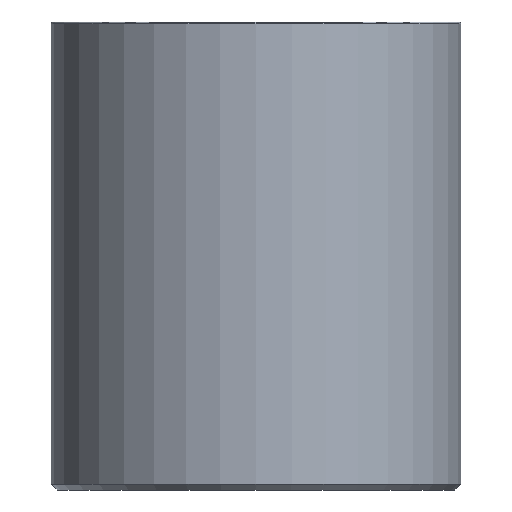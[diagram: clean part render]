
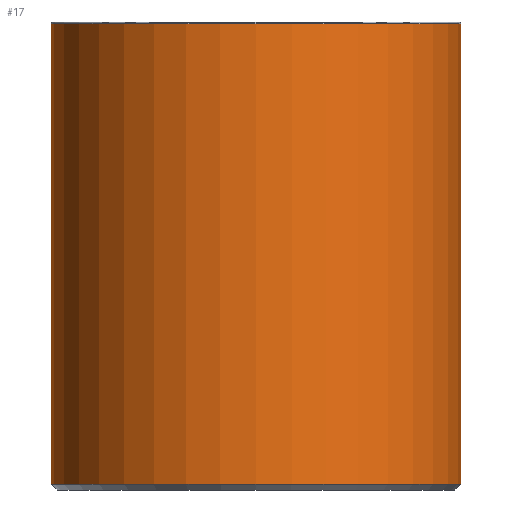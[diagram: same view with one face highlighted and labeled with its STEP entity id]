
A CAD part, front view. The second image highlights one B-rep face of the part: STEP entity #17.
In plain terms, the highlighted cylindrical face has radius 52.5 mm (diameter 105 mm), a full revolution.
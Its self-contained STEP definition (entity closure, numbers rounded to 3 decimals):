
#17 = ADVANCED_FACE('',(#18),#45,.T.);
#18 = FACE_BOUND('',#19,.F.);
#19 = EDGE_LOOP('',(#20,#30,#37,#38));
#20 = ORIENTED_EDGE('',*,*,#21,.F.);
#21 = EDGE_CURVE('',#22,#24,#26,.T.);
#22 = VERTEX_POINT('',#23);
#23 = CARTESIAN_POINT('',(0.,-52.5,119.5));
#24 = VERTEX_POINT('',#25);
#25 = CARTESIAN_POINT('',(0.,-52.5,1.5));
#26 = LINE('',#27,#28);
#27 = CARTESIAN_POINT('',(0.,-52.5,120.));
#28 = VECTOR('',#29,1.);
#29 = DIRECTION('',(0.,0.,-1.));
#30 = ORIENTED_EDGE('',*,*,#31,.T.);
#31 = EDGE_CURVE('',#22,#22,#32,.T.);
#32 = CIRCLE('',#33,52.5);
#33 = AXIS2_PLACEMENT_3D('',#34,#35,#36);
#34 = CARTESIAN_POINT('',(0.,0.,119.5));
#35 = DIRECTION('',(-0.,0.,1.));
#36 = DIRECTION('',(0.,-1.,0.));
#37 = ORIENTED_EDGE('',*,*,#21,.T.);
#38 = ORIENTED_EDGE('',*,*,#39,.F.);
#39 = EDGE_CURVE('',#24,#24,#40,.T.);
#40 = CIRCLE('',#41,52.5);
#41 = AXIS2_PLACEMENT_3D('',#42,#43,#44);
#42 = CARTESIAN_POINT('',(0.,0.,1.5));
#43 = DIRECTION('',(-0.,0.,1.));
#44 = DIRECTION('',(0.,-1.,0.));
#45 = CYLINDRICAL_SURFACE('',#46,52.5);
#46 = AXIS2_PLACEMENT_3D('',#47,#48,#49);
#47 = CARTESIAN_POINT('',(0.,0.,120.));
#48 = DIRECTION('',(-0.,-0.,-1.));
#49 = DIRECTION('',(0.,-1.,0.));
